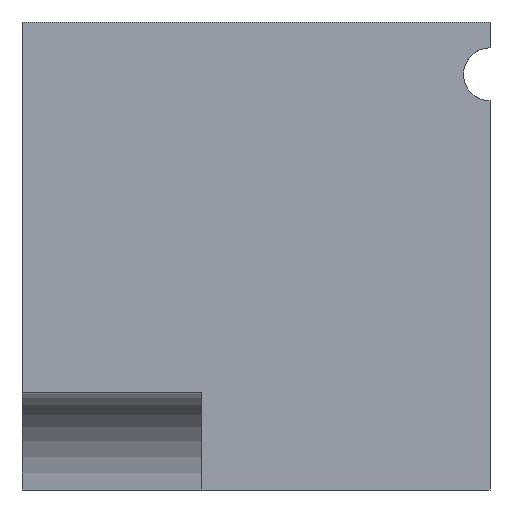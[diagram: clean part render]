
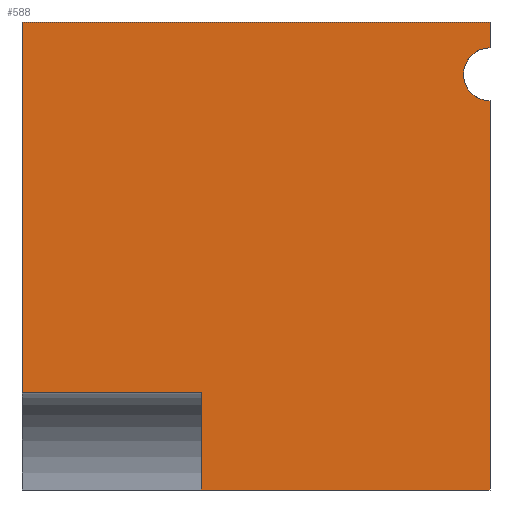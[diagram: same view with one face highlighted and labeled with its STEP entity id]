
A CAD part, left-side view. The second image highlights one B-rep face of the part: STEP entity #588.
In plain terms, the highlighted planar face has unit normal (-1, 0, 0).
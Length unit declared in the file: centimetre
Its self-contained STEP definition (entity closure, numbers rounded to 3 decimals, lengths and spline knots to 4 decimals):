
#4 = VECTOR ( 'NONE', #101, 100. ) ;
#16 = LINE ( 'NONE', #426, #456 ) ;
#21 = EDGE_CURVE ( 'NONE', #328, #565, #249, .T. ) ;
#25 = CARTESIAN_POINT ( 'NONE',  ( 0., 1000., 1000. ) ) ;
#33 = EDGE_CURVE ( 'NONE', #357, #409, #112, .T. ) ;
#41 = LINE ( 'NONE', #270, #313 ) ;
#43 = EDGE_CURVE ( 'NONE', #512, #565, #440, .T. ) ;
#52 = DIRECTION ( 'NONE',  ( 1., 0., 0. ) ) ;
#73 = CARTESIAN_POINT ( 'NONE',  ( 0., 616.7605, 208.9458 ) ) ;
#101 = DIRECTION ( 'NONE',  ( 0., 0., -1. ) ) ;
#112 = LINE ( 'NONE', #199, #264 ) ;
#114 = PLANE ( 'NONE',  #566 ) ;
#117 = LINE ( 'NONE', #217, #499 ) ;
#132 = ORIENTED_EDGE ( 'NONE', *, *, #554, .F. ) ;
#135 = ORIENTED_EDGE ( 'NONE', *, *, #336, .T. ) ;
#154 = CARTESIAN_POINT ( 'NONE',  ( 0., 1000., 1000. ) ) ;
#170 = VECTOR ( 'NONE', #298, 100. ) ;
#199 = CARTESIAN_POINT ( 'NONE',  ( 0., 1000., 1000. ) ) ;
#204 = CARTESIAN_POINT ( 'NONE',  ( 0., 1000., 208.9458 ) ) ;
#212 = DIRECTION ( 'NONE',  ( 0., 0., -1. ) ) ;
#217 = CARTESIAN_POINT ( 'NONE',  ( 0., 1000., 1000. ) ) ;
#220 = DIRECTION ( 'NONE',  ( 1., 0., 0. ) ) ;
#229 = VERTEX_POINT ( 'NONE', #538 ) ;
#241 = CARTESIAN_POINT ( 'NONE',  ( 0., 1000., 0. ) ) ;
#249 = LINE ( 'NONE', #241, #403 ) ;
#256 = CARTESIAN_POINT ( 'NONE',  ( 0., 0., 831.6292 ) ) ;
#264 = VECTOR ( 'NONE', #572, 100. ) ;
#270 = CARTESIAN_POINT ( 'NONE',  ( 0., 616.7605, 208.9458 ) ) ;
#273 = ORIENTED_EDGE ( 'NONE', *, *, #21, .T. ) ;
#298 = DIRECTION ( 'NONE',  ( 0., 0., -1. ) ) ;
#304 = CARTESIAN_POINT ( 'NONE',  ( 0., 0., 1000. ) ) ;
#308 = VERTEX_POINT ( 'NONE', #73 ) ;
#311 = VERTEX_POINT ( 'NONE', #462 ) ;
#313 = VECTOR ( 'NONE', #580, 100. ) ;
#315 = ORIENTED_EDGE ( 'NONE', *, *, #474, .T. ) ;
#318 = CARTESIAN_POINT ( 'NONE',  ( 0., 616.7605, 0. ) ) ;
#328 = VERTEX_POINT ( 'NONE', #318 ) ;
#331 = ORIENTED_EDGE ( 'NONE', *, *, #597, .F. ) ;
#336 = EDGE_CURVE ( 'NONE', #409, #308, #41, .T. ) ;
#357 = VERTEX_POINT ( 'NONE', #154 ) ;
#360 = DIRECTION ( 'NONE',  ( 0., -1., 0. ) ) ;
#361 = EDGE_CURVE ( 'NONE', #328, #308, #16, .T. ) ;
#379 = ORIENTED_EDGE ( 'NONE', *, *, #361, .F. ) ;
#386 = DIRECTION ( 'NONE',  ( 0., -1., 0. ) ) ;
#403 = VECTOR ( 'NONE', #386, 100. ) ;
#404 = LINE ( 'NONE', #304, #170 ) ;
#409 = VERTEX_POINT ( 'NONE', #204 ) ;
#426 = CARTESIAN_POINT ( 'NONE',  ( 0., 616.7605, 1000. ) ) ;
#429 = DIRECTION ( 'NONE',  ( 0., 0., -1. ) ) ;
#440 = LINE ( 'NONE', #582, #4 ) ;
#456 = VECTOR ( 'NONE', #577, 100. ) ;
#458 = FACE_OUTER_BOUND ( 'NONE', #470, .T. ) ;
#462 = CARTESIAN_POINT ( 'NONE',  ( 0., 0., 1000. ) ) ;
#463 = ORIENTED_EDGE ( 'NONE', *, *, #43, .F. ) ;
#470 = EDGE_LOOP ( 'NONE', ( #483, #135, #379, #273, #463, #315, #331, #132 ) ) ;
#474 = EDGE_CURVE ( 'NONE', #512, #229, #506, .T. ) ;
#478 = CARTESIAN_POINT ( 'NONE',  ( 0., 0., 888.1736 ) ) ;
#483 = ORIENTED_EDGE ( 'NONE', *, *, #33, .T. ) ;
#499 = VECTOR ( 'NONE', #360, 100. ) ;
#506 = CIRCLE ( 'NONE', #557, 56.5444 ) ;
#512 = VERTEX_POINT ( 'NONE', #256 ) ;
#538 = CARTESIAN_POINT ( 'NONE',  ( 0., 0., 944.718 ) ) ;
#546 = CARTESIAN_POINT ( 'NONE',  ( 0., 0., 0. ) ) ;
#554 = EDGE_CURVE ( 'NONE', #357, #311, #117, .T. ) ;
#557 = AXIS2_PLACEMENT_3D ( 'NONE', #478, #52, #429 ) ;
#565 = VERTEX_POINT ( 'NONE', #546 ) ;
#566 = AXIS2_PLACEMENT_3D ( 'NONE', #25, #220, #212 ) ;
#572 = DIRECTION ( 'NONE',  ( 0., 0., -1. ) ) ;
#577 = DIRECTION ( 'NONE',  ( 0., 0., 1. ) ) ;
#580 = DIRECTION ( 'NONE',  ( 0., -1., 0. ) ) ;
#582 = CARTESIAN_POINT ( 'NONE',  ( 0., 0., 1000. ) ) ;
#588 = ADVANCED_FACE ( 'NONE', ( #458 ), #114, .F. ) ;
#597 = EDGE_CURVE ( 'NONE', #311, #229, #404, .T. ) ;
